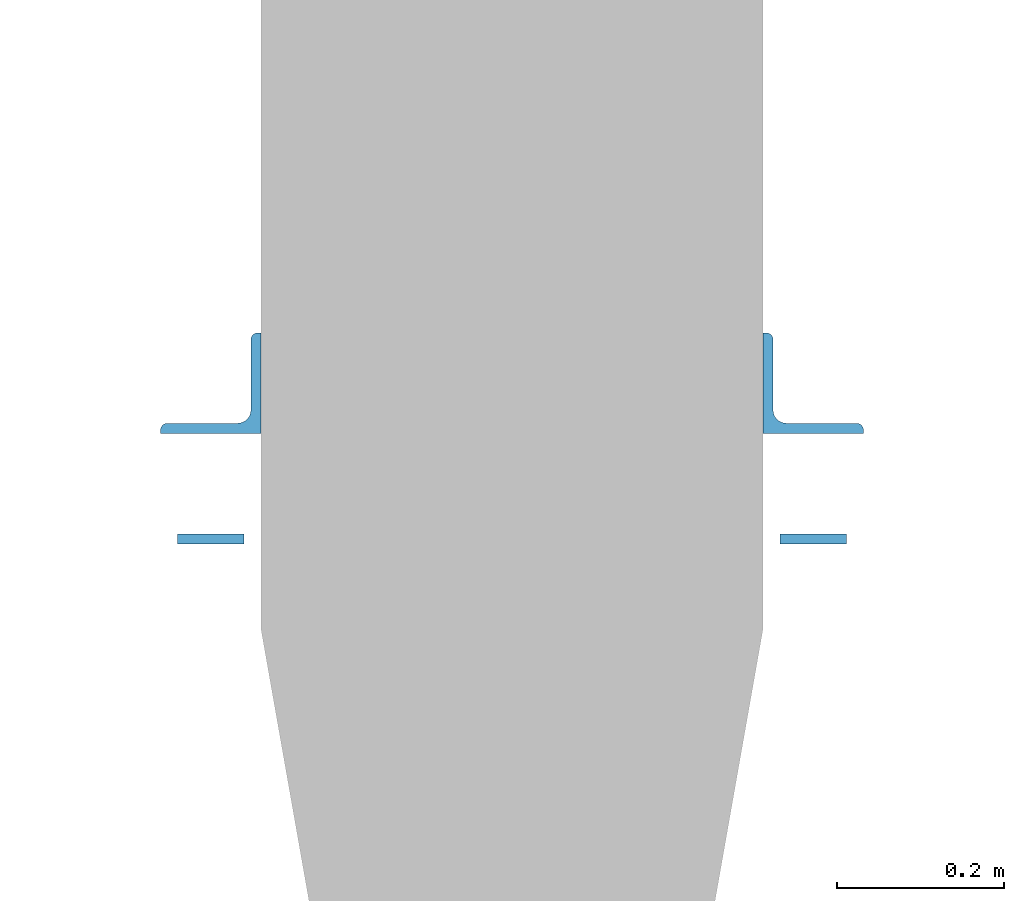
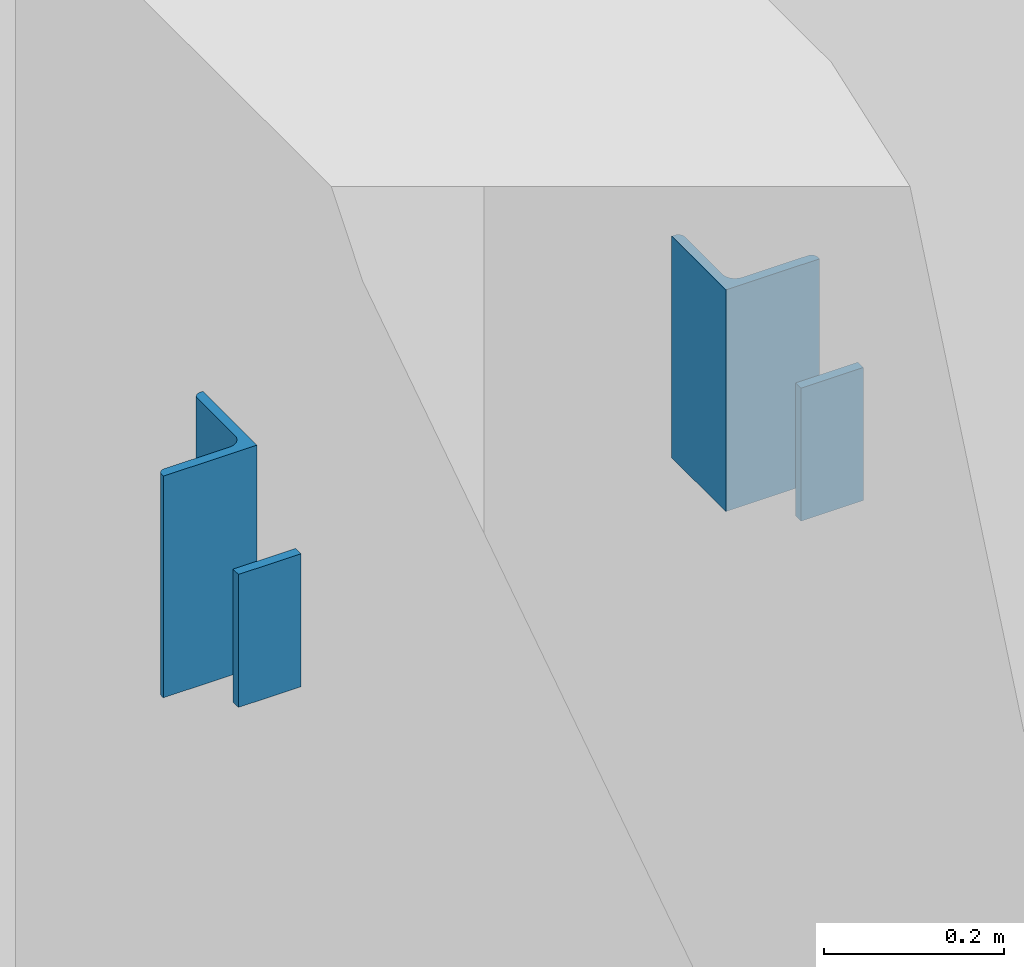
# One storey, part 7 of 22: 4 columns.
"""IFC2X3 building model written with IfcOpenShell, lengths in millimetres."""

from ifc_helpers import new_model, entity, si_unit, converted_unit, derived_unit, direction, frame, frame_2d, origin, origin_2d_with_axis, place, context, subcontext, project, spatial, polyline, circle_curve, parameter, trimmed, segment, composite_curve, rectangle, outline, extrude, source, transform, mapped, material, type_object, type_shapes, element, save


model = new_model("IFC2X3")

# Units and contexts
model_context = context("Model", 3, precision=0.01, world=origin(), true_north=direction((6.12303176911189e-17, 1.0)))
body_context = subcontext(model_context, "Body", "Model", "MODEL_VIEW")
ifc_project = project(units=[si_unit("LENGTHUNIT", "METRE", prefix="MILLI"), si_unit("AREAUNIT", "SQUARE_METRE"), si_unit("VOLUMEUNIT", "CUBIC_METRE"), converted_unit("PLANEANGLEUNIT", "DEGREE", entity("IfcRatioMeasure", 0.0174532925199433), si_unit("PLANEANGLEUNIT", "RADIAN"), dimensions=[0, 0, 0, 0, 0, 0, 0]), si_unit("MASSUNIT", "GRAM", prefix="KILO"), derived_unit("MASSDENSITYUNIT", [(si_unit("MASSUNIT", "GRAM", prefix="KILO"), 1), (si_unit("LENGTHUNIT", "METRE"), -3)]), si_unit("TIMEUNIT", "SECOND"), si_unit("FREQUENCYUNIT", "HERTZ"), si_unit("THERMODYNAMICTEMPERATUREUNIT", "DEGREE_CELSIUS"), derived_unit("THERMALTRANSMITTANCEUNIT", [(si_unit("MASSUNIT", "GRAM", prefix="KILO"), 1), (si_unit("THERMODYNAMICTEMPERATUREUNIT", "KELVIN"), -1), (si_unit("TIMEUNIT", "SECOND"), -3)]), derived_unit("VOLUMETRICFLOWRATEUNIT", [(si_unit("LENGTHUNIT", "METRE"), 3), (si_unit("TIMEUNIT", "SECOND"), -1)]), si_unit("ELECTRICCURRENTUNIT", "AMPERE"), si_unit("ELECTRICVOLTAGEUNIT", "VOLT"), si_unit("POWERUNIT", "WATT"), si_unit("FORCEUNIT", "NEWTON", prefix="KILO"), si_unit("ILLUMINANCEUNIT", "LUX"), si_unit("LUMINOUSFLUXUNIT", "LUMEN"), si_unit("LUMINOUSINTENSITYUNIT", "CANDELA"), derived_unit("USERDEFINED", [(si_unit("MASSUNIT", "GRAM", prefix="KILO"), -1), (si_unit("LENGTHUNIT", "METRE"), -2), (si_unit("TIMEUNIT", "SECOND"), 3), (si_unit("LUMINOUSFLUXUNIT", "LUMEN"), 1)]), derived_unit("LINEARVELOCITYUNIT", [(si_unit("LENGTHUNIT", "METRE"), 1), (si_unit("TIMEUNIT", "SECOND"), -1)]), si_unit("PRESSUREUNIT", "PASCAL"), derived_unit("USERDEFINED", [(si_unit("LENGTHUNIT", "METRE"), -2), (si_unit("MASSUNIT", "GRAM", prefix="KILO"), 1), (si_unit("TIMEUNIT", "SECOND"), -2)])], contexts=[model_context])

# Site, building, storey
site_placement = place(None, origin())
site = spatial("IfcSite", under=ifc_project, at=site_placement, Name="Default", CompositionType="ELEMENT")
building_placement = place(site_placement, origin())
building = spatial("IfcBuilding", under=site, at=building_placement, Name="niet gebruiken", CompositionType="ELEMENT")
storey_placement = place(building_placement, frame((0.0, 0.0, 15000.0)))
storey = spatial("IfcBuildingStorey", under=building, at=storey_placement, Name="04 vierde verdieping", CompositionType="ELEMENT", Elevation=15000.0)

# Columns
ifc_material = material(Name="NLRS_h2_staal")
column_type_1 = type_object("IfcColumnType", Name="kolomgelijzijdig hoekprofiel LEQU_120x120x12_!", PredefinedType="COLUMN", material=ifc_material)
shared_shape_1 = source(origin(), body_context, "Body", "SweptSolid", [
    extrude(outline(composite_curve([segment(polyline([(-74.6666666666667, -45.3333333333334), (45.3333333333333, -45.3333333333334)]), True, "CONTINUOUS"), segment(polyline([(45.3333333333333, -45.3333333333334), (45.3333333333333, 74.6666666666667)]), True, "CONTINUOUS"), segment(polyline([(45.3333333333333, 74.6666666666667), (41.3333333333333, 74.6666666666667)]), True, "CONTINUOUS"), segment(trimmed(circle_curve(frame_2d((41.3333333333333, 66.6666666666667), x_axis=(0.0, 1.0)), 8.0), [parameter(0.0)], [parameter(90.0)], True, "PARAMETER"), True, "CONTINUOUS"), segment(polyline([(33.3333333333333, 66.6666666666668), (33.3333333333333, -17.3333333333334)]), True, "CONTINUOUS"), segment(trimmed(circle_curve(frame_2d((17.3333333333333, -17.3333333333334), x_axis=(1.0, 0.0)), 16.0), [parameter(270.0)], [parameter(0.0)], True, "PARAMETER"), False, "CONTINUOUS"), segment(polyline([(17.3333333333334, -33.3333333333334), (-66.6666666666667, -33.3333333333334)]), True, "CONTINUOUS"), segment(trimmed(circle_curve(frame_2d((-66.6666666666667, -41.3333333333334), x_axis=(0.0, 1.0)), 7.99999999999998), [parameter(0.0)], [parameter(90.0000000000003)], True, "PARAMETER"), True, "CONTINUOUS"), segment(polyline([(-74.6666666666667, -41.3333333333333), (-74.6666666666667, -45.3333333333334)]), True, "CONTINUOUS")], self_intersect=False)), frame((32.8333333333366, 32.8333333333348, 16235.0), z_axis=(0.0, 0.0, 1.0), x_axis=(0.0, -1.0, 0.0)), (0.0, 0.0, 1.0), 300.00000000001),
])
type_shapes(column_type_1, [shared_shape_1])
column_1_placement = place(storey_placement, frame((155437.5, 1246.49999999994, -15000.0), z_axis=(0.0, 0.0, 1.0), x_axis=(0.0, 1.0, 0.0)))
element("IfcColumn", 1, at=column_1_placement, inside=storey, type_object=column_type_1, material=ifc_material, Name="NLRS_28.11_SCO_TLB_stalen kolom hoekprofiel gelijkzijdig_gen:kolomgelijzijdig hoekprofiel LEQU_120x120x12_!", ObjectType="kolomgelijzijdig hoekprofiel LEQU_120x120x12_!", context=body_context, shape_type="MappedRepresentation", body=[
    mapped(shared_shape_1, transform((0.0, 0.0, 0.0), scale=1.0)),
])
column_type_2 = type_object("IfcColumnType", Name="kolomgelijzijdig hoekprofiel LEQU_120x120x12_!", PredefinedType="COLUMN", material=ifc_material)
shared_shape_2 = source(origin(), body_context, "Body", "SweptSolid", [
    extrude(outline(composite_curve([segment(polyline([(-45.3333333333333, -45.3333333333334), (74.6666666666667, -45.3333333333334)]), True, "CONTINUOUS"), segment(polyline([(74.6666666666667, -45.3333333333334), (74.6666666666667, -41.3333333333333)]), True, "CONTINUOUS"), segment(trimmed(circle_curve(frame_2d((66.6666666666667, -41.3333333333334), x_axis=(1.0, 0.0)), 7.99999999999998), [parameter(0.0)], [parameter(90.0000000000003)], True, "PARAMETER"), True, "CONTINUOUS"), segment(polyline([(66.6666666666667, -33.3333333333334), (-17.3333333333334, -33.3333333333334)]), True, "CONTINUOUS"), segment(trimmed(circle_curve(frame_2d((-17.3333333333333, -17.3333333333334), x_axis=(0.0, -1.0)), 16.0), [parameter(270.0)], [parameter(0.0)], True, "PARAMETER"), False, "CONTINUOUS"), segment(polyline([(-33.3333333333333, -17.3333333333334), (-33.3333333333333, 66.6666666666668)]), True, "CONTINUOUS"), segment(trimmed(circle_curve(frame_2d((-41.3333333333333, 66.6666666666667), x_axis=(1.0, 0.0)), 8.0), [parameter(0.0)], [parameter(90.0)], True, "PARAMETER"), True, "CONTINUOUS"), segment(polyline([(-41.3333333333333, 74.6666666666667), (-45.3333333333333, 74.6666666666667)]), True, "CONTINUOUS"), segment(polyline([(-45.3333333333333, 74.6666666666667), (-45.3333333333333, -45.3333333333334)]), True, "CONTINUOUS")], self_intersect=False)), frame((32.8333333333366, -32.8333333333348, 16235.0), z_axis=(0.0, 0.0, 1.0), x_axis=(0.0, -1.0, 0.0)), (0.0, 0.0, 1.0), 300.00000000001),
])
type_shapes(column_type_2, [shared_shape_2])
column_2_placement = place(storey_placement, frame((156062.500000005, 1246.49999999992, -15000.0), z_axis=(0.0, 0.0, 1.0), x_axis=(0.0, 1.0, 0.0)))
element("IfcColumn", 2, at=column_2_placement, inside=storey, type_object=column_type_2, material=ifc_material, Name="NLRS_28.11_SCO_TLB_stalen kolom hoekprofiel gelijkzijdig_gen:kolomgelijzijdig hoekprofiel LEQU_120x120x12_!", ObjectType="kolomgelijzijdig hoekprofiel LEQU_120x120x12_!", context=body_context, shape_type="MappedRepresentation", body=[
    mapped(shared_shape_2, transform((0.0, 0.0, 0.0), scale=1.0)),
])
column_type_3 = type_object("IfcColumnType", Name="kolom stripstaal RECT_80x12", PredefinedType="COLUMN", material=ifc_material)
shared_shape_3 = source(origin(), body_context, "Body", "SweptSolid", [
    extrude(rectangle(XDim=12.0, YDim=79.9999999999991, at=frame_2d((0.0, -8.66506866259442e-12), x_axis=(1.0, 0.0))), frame((155390.0, 1108.0, 16295.0), z_axis=(0.0, 0.0, 1.0), x_axis=(0.0, -1.0, 0.0)), (0.0, 0.0, 1.0), 180.000000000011),
])
type_shapes(column_type_3, [shared_shape_3])
column_3_placement = place(storey_placement, frame((0.0, 0.0, -15000.0)))
element("IfcColumn", 3, at=column_3_placement, inside=storey, type_object=column_type_3, material=ifc_material, Name="NLRS_28.11_SCO_TLB_stalen kolom stripstaal_gen:kolom stripstaal RECT_80x12", ObjectType="kolom stripstaal RECT_80x12", context=body_context, shape_type="MappedRepresentation", body=[
    mapped(shared_shape_3, transform((0.0, 0.0, 0.0), scale=1.0)),
])
column_type_4 = type_object("IfcColumnType", Name="kolom stripstaal RECT_80x12", PredefinedType="COLUMN", material=ifc_material)
shared_shape_4 = source(origin(), body_context, "Body", "SweptSolid", [
    extrude(rectangle(XDim=12.0, YDim=80.0000000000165, at=origin_2d_with_axis()), frame((156110.0, 1108.0, 16295.0), z_axis=(0.0, 0.0, 1.0), x_axis=(0.0, -1.0, 0.0)), (0.0, 0.0, 1.0), 180.000000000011),
])
type_shapes(column_type_4, [shared_shape_4])
column_4_placement = place(storey_placement, frame((0.0, 0.0, -15000.0)))
element("IfcColumn", 4, at=column_4_placement, inside=storey, type_object=column_type_4, material=ifc_material, Name="NLRS_28.11_SCO_TLB_stalen kolom stripstaal_gen:kolom stripstaal RECT_80x12", ObjectType="kolom stripstaal RECT_80x12", context=body_context, shape_type="MappedRepresentation", body=[
    mapped(shared_shape_4, transform((0.0, 0.0, 0.0), scale=1.0)),
])

save(model, "model.ifc")
